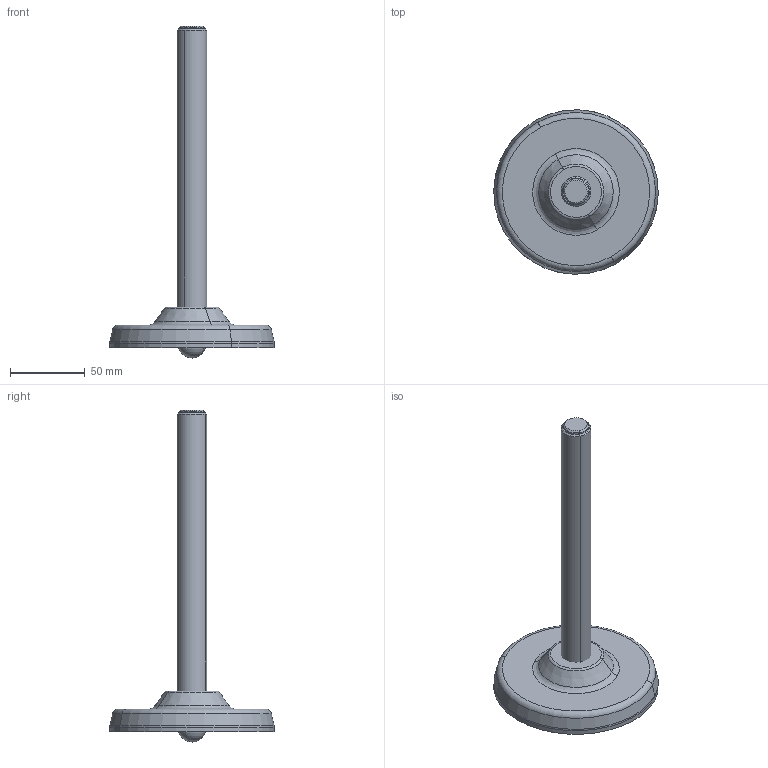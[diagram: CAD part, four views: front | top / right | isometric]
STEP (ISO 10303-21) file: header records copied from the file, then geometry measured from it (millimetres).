
FILE_DESCRIPTION(('CATIA V5 STEP Exchange'),'2;1');
FILE_NAME('C:\Users\dentellad\Desktop\94753ZH_01.stp','2017-02-24T17:21:40+00:00',('none'),('none'),'Version 5-6 Release 2012','CATIA V5 STEP AP203','none');
FILE_SCHEMA(('CONFIG_CONTROL_DESIGN'));
Products named in the file (1): 94753ZH_01
Assembly tree (3 placements, depth 2):
  94753ZH_01
    #58
    #36832
    #38401
Bounding box: 109.97 x 109.97 x 222 mm (x, y, z)
Volume: 182308.9 mm3; surface area: 76351 mm2
Topology: 4 solids, 4 shells, 1462 faces, 3985 edges, 2548 vertices
Faces by surface type: plane 954, bspline 170, cylinder 130, torus 128, cone 56, sphere 24
Entity records: 52950 total; most frequent: CARTESIAN_POINT 19676, ORIENTED_EDGE 7942, DIRECTION 5065, EDGE_CURVE 3971, VERTEX_POINT 2548, VECTOR 2339, LINE 2339, AXIS2_PLACEMENT_3D 1638
